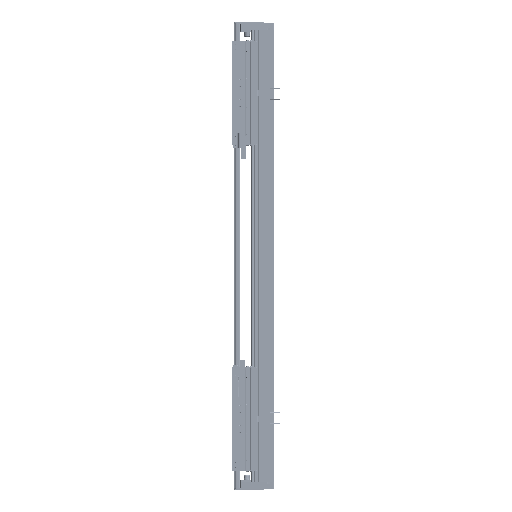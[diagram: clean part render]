
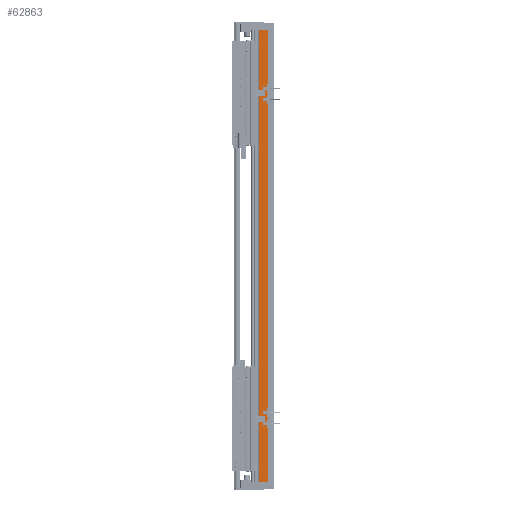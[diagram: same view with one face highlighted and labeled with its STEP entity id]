
A CAD part, left-side view. The second image highlights one B-rep face of the part: STEP entity #62863.
In plain terms, the highlighted planar face has unit normal (-1, 0, 0).
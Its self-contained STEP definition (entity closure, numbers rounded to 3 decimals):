
#4011 = EDGE_LOOP ( 'NONE', ( #139294, #120225, #116822, #65253 ) ) ;
#12161 = CARTESIAN_POINT ( 'NONE',  ( -97.5, 36.95, 540. ) ) ;
#17220 = CARTESIAN_POINT ( 'NONE',  ( -97.5, 36.95, 540. ) ) ;
#19132 = CARTESIAN_POINT ( 'NONE',  ( -97.5, 36.95, 540. ) ) ;
#19197 = EDGE_CURVE ( 'NONE', #26899, #129390, #108984, .T. ) ;
#19277 = FACE_OUTER_BOUND ( 'NONE', #4011, .T. ) ;
#19312 = VERTEX_POINT ( 'NONE', #19132 ) ;
#20038 = DIRECTION ( 'NONE',  ( 1., 0., 0. ) ) ;
#26899 = VERTEX_POINT ( 'NONE', #83224 ) ;
#29226 = DIRECTION ( 'NONE',  ( 0., 0., -1. ) ) ;
#39645 = PLANE ( 'NONE',  #76678 ) ;
#47770 = LINE ( 'NONE', #12161, #105582 ) ;
#50543 = CARTESIAN_POINT ( 'NONE',  ( -97.5, 14.45, -540. ) ) ;
#62863 = ADVANCED_FACE ( 'NONE', ( #19277 ), #39645, .F. ) ;
#63199 = VECTOR ( 'NONE', #29226, 1000. ) ;
#65253 = ORIENTED_EDGE ( 'NONE', *, *, #83815, .T. ) ;
#65742 = DIRECTION ( 'NONE',  ( 0., 1., 0. ) ) ;
#75317 = DIRECTION ( 'NONE',  ( 0., -1., 0. ) ) ;
#76678 = AXIS2_PLACEMENT_3D ( 'NONE', #103619, #20038, #65742 ) ;
#78687 = VERTEX_POINT ( 'NONE', #125488 ) ;
#83224 = CARTESIAN_POINT ( 'NONE',  ( -97.5, 14.45, 540. ) ) ;
#83815 = EDGE_CURVE ( 'NONE', #19312, #78687, #47770, .T. ) ;
#88061 = CARTESIAN_POINT ( 'NONE',  ( -97.5, 14.45, 540. ) ) ;
#97799 = LINE ( 'NONE', #17220, #107238 ) ;
#101150 = CARTESIAN_POINT ( 'NONE',  ( -97.5, 36.95, -540. ) ) ;
#102689 = LINE ( 'NONE', #101150, #136162 ) ;
#103619 = CARTESIAN_POINT ( 'NONE',  ( -97.5, 36.95, 540. ) ) ;
#105582 = VECTOR ( 'NONE', #117433, 1000. ) ;
#107238 = VECTOR ( 'NONE', #75317, 1000. ) ;
#108984 = LINE ( 'NONE', #88061, #63199 ) ;
#113520 = DIRECTION ( 'NONE',  ( 0., -1., 0. ) ) ;
#116822 = ORIENTED_EDGE ( 'NONE', *, *, #144883, .F. ) ;
#117433 = DIRECTION ( 'NONE',  ( 0., 0., -1. ) ) ;
#120225 = ORIENTED_EDGE ( 'NONE', *, *, #19197, .F. ) ;
#125488 = CARTESIAN_POINT ( 'NONE',  ( -97.5, 36.95, -540. ) ) ;
#129390 = VERTEX_POINT ( 'NONE', #50543 ) ;
#132316 = EDGE_CURVE ( 'NONE', #78687, #129390, #102689, .T. ) ;
#136162 = VECTOR ( 'NONE', #113520, 1000. ) ;
#139294 = ORIENTED_EDGE ( 'NONE', *, *, #132316, .T. ) ;
#144883 = EDGE_CURVE ( 'NONE', #19312, #26899, #97799, .T. ) ;
